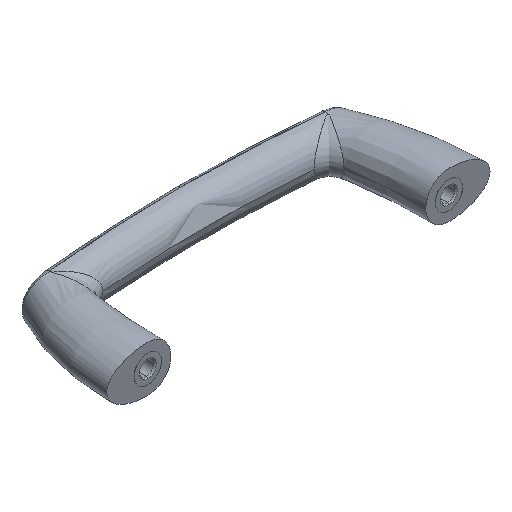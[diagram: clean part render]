
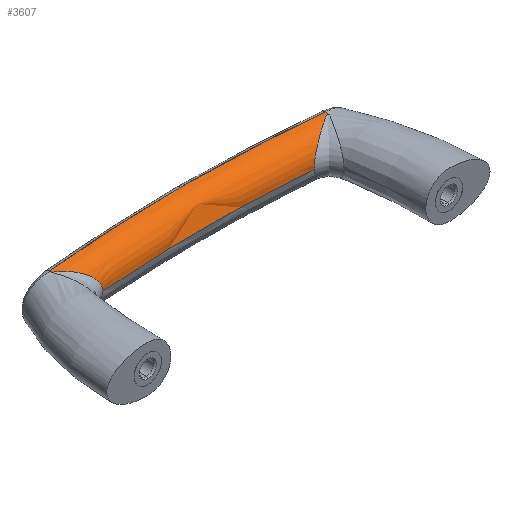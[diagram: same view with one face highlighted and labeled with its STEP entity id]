
A CAD part, isometric view. The second image highlights one B-rep face of the part: STEP entity #3607.
In plain terms, the highlighted toroidal (fillet/blend) face has major radius 397.752 mm and minor radius 6.752 mm.
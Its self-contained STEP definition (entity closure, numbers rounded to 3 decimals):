
#61 = AXIS2_PLACEMENT_3D ( 'NONE', #2431, #2990, #2130 ) ;
#70 = CARTESIAN_POINT ( 'NONE',  ( 31.441, 26.586, 2.218 ) ) ;
#83 = EDGE_CURVE ( 'NONE', #3596, #2938, #1330, .T. ) ;
#94 = VERTEX_POINT ( 'NONE', #1089 ) ;
#100 = CARTESIAN_POINT ( 'NONE',  ( 40.082, 31.614, 6.725 ) ) ;
#129 = ORIENTED_EDGE ( 'NONE', *, *, #273, .T. ) ;
#130 = AXIS2_PLACEMENT_3D ( 'NONE', #1423, #579, #2797 ) ;
#144 = CARTESIAN_POINT ( 'NONE',  ( -38.945, 31.002, 6.622 ) ) ;
#150 = ORIENTED_EDGE ( 'NONE', *, *, #2723, .T. ) ;
#182 = CARTESIAN_POINT ( 'NONE',  ( 40.217, 31.664, 6.73 ) ) ;
#209 = CARTESIAN_POINT ( 'NONE',  ( -36.286, 29.428, 5.982 ) ) ;
#256 = CARTESIAN_POINT ( 'NONE',  ( 0., 34.45, 6.749 ) ) ;
#273 = EDGE_CURVE ( 'NONE', #94, #2938, #3078, .T. ) ;
#306 = EDGE_CURVE ( 'NONE', #3158, #3596, #1149, .T. ) ;
#342 = CARTESIAN_POINT ( 'NONE',  ( 30.899, 26.277, 0. ) ) ;
#373 = DIRECTION ( 'NONE',  ( 0., 1., 0. ) ) ;
#387 = CARTESIAN_POINT ( 'NONE',  ( 32.984, 27.477, 4.077 ) ) ;
#440 = CARTESIAN_POINT ( 'NONE',  ( -39.694, 31.422, 6.7 ) ) ;
#502 = CARTESIAN_POINT ( 'NONE',  ( -30.899, 26.277, 0. ) ) ;
#531 = FACE_OUTER_BOUND ( 'NONE', #3296, .T. ) ;
#535 = ORIENTED_EDGE ( 'NONE', *, *, #1743, .T. ) ;
#555 = CARTESIAN_POINT ( 'NONE',  ( 40.272, 32.208, 0. ) ) ;
#579 = DIRECTION ( 'NONE',  ( 0., 0., -1. ) ) ;
#596 = CARTESIAN_POINT ( 'NONE',  ( 32.413, 27.146, 3.524 ) ) ;
#656 = TOROIDAL_SURFACE ( 'NONE', #130, 397.752, 6.752 ) ;
#661 = CARTESIAN_POINT ( 'NONE',  ( 0., -363.5, 6.749 ) ) ;
#689 = CARTESIAN_POINT ( 'NONE',  ( -32.984, 27.477, 4.077 ) ) ;
#692 = AXIS2_PLACEMENT_3D ( 'NONE', #2303, #1772, #896 ) ;
#713 = CARTESIAN_POINT ( 'NONE',  ( -32.413, 27.146, 3.524 ) ) ;
#734 = CARTESIAN_POINT ( 'NONE',  ( -33.588, 27.829, 4.575 ) ) ;
#757 = CARTESIAN_POINT ( 'NONE',  ( -39.951, 31.552, 6.718 ) ) ;
#873 = CARTESIAN_POINT ( 'NONE',  ( 31.125, 26.406, 1.424 ) ) ;
#896 = DIRECTION ( 'NONE',  ( 0., 1., 0. ) ) ;
#904 = CARTESIAN_POINT ( 'NONE',  ( 39.951, 31.552, 6.718 ) ) ;
#913 = DIRECTION ( 'NONE',  ( 0.995, 0.101, 0. ) ) ;
#938 = CARTESIAN_POINT ( 'NONE',  ( 34.906, 28.605, 5.382 ) ) ;
#981 = CARTESIAN_POINT ( 'NONE',  ( -39.192, 31.145, 6.653 ) ) ;
#1027 = CARTESIAN_POINT ( 'NONE',  ( -40.082, 31.614, 6.725 ) ) ;
#1048 = CARTESIAN_POINT ( 'NONE',  ( -30.899, 26.277, 0.29 ) ) ;
#1069 = CARTESIAN_POINT ( 'NONE',  ( -32.789, 27.364, 3.901 ) ) ;
#1089 = CARTESIAN_POINT ( 'NONE',  ( 30.899, 26.277, 0. ) ) ;
#1149 = CIRCLE ( 'NONE', #1920, 397.95 ) ;
#1181 = CARTESIAN_POINT ( 'NONE',  ( 39.192, 31.145, 6.653 ) ) ;
#1212 = CARTESIAN_POINT ( 'NONE',  ( 36.756, 29.71, 6.142 ) ) ;
#1221 = AXIS2_PLACEMENT_3D ( 'NONE', #3425, #913, #1476 ) ;
#1257 = CARTESIAN_POINT ( 'NONE',  ( -37.714, 30.285, 6.405 ) ) ;
#1281 = CARTESIAN_POINT ( 'NONE',  ( -30.899, 26.277, 0. ) ) ;
#1324 = CARTESIAN_POINT ( 'NONE',  ( -34.017, 28.08, 4.866 ) ) ;
#1330 = CIRCLE ( 'NONE', #2752, 6.752 ) ;
#1423 = CARTESIAN_POINT ( 'NONE',  ( 0., -363.5, 0. ) ) ;
#1476 = DIRECTION ( 'NONE',  ( 0., 0., -1. ) ) ;
#1483 = CARTESIAN_POINT ( 'NONE',  ( 33.588, 27.829, 4.575 ) ) ;
#1499 = CARTESIAN_POINT ( 'NONE',  ( 37.714, 30.285, 6.405 ) ) ;
#1556 = CARTESIAN_POINT ( 'NONE',  ( -40.217, 31.664, 6.73 ) ) ;
#1579 = CARTESIAN_POINT ( 'NONE',  ( -31.441, 26.586, 2.218 ) ) ;
#1622 = CARTESIAN_POINT ( 'NONE',  ( -31.125, 26.406, 1.424 ) ) ;
#1643 = CIRCLE ( 'NONE', #61, 391. ) ;
#1658 = DIRECTION ( 'NONE',  ( 0., 0., -1. ) ) ;
#1719 = CARTESIAN_POINT ( 'NONE',  ( 34.017, 28.08, 4.866 ) ) ;
#1743 = EDGE_CURVE ( 'NONE', #2757, #3153, #2826, .T. ) ;
#1749 = CARTESIAN_POINT ( 'NONE',  ( 40.217, 31.664, 6.73 ) ) ;
#1772 = DIRECTION ( 'NONE',  ( 0., 0., 1. ) ) ;
#1778 = ORIENTED_EDGE ( 'NONE', *, *, #83, .F. ) ;
#1811 = CARTESIAN_POINT ( 'NONE',  ( -35.36, 28.875, 5.602 ) ) ;
#1876 = CARTESIAN_POINT ( 'NONE',  ( -31.042, 26.358, 1.149 ) ) ;
#1920 = AXIS2_PLACEMENT_3D ( 'NONE', #661, #2609, #373 ) ;
#1997 = CARTESIAN_POINT ( 'NONE',  ( 32.231, 27.041, 3.321 ) ) ;
#2051 = CARTESIAN_POINT ( 'NONE',  ( 30.929, 26.294, 0.584 ) ) ;
#2066 = CARTESIAN_POINT ( 'NONE',  ( 35.36, 28.875, 5.602 ) ) ;
#2130 = DIRECTION ( 'NONE',  ( -1., 0., 0. ) ) ;
#2140 = CARTESIAN_POINT ( 'NONE',  ( -34.906, 28.605, 5.382 ) ) ;
#2303 = CARTESIAN_POINT ( 'NONE',  ( 0., -363.5, 6.749 ) ) ;
#2313 = CARTESIAN_POINT ( 'NONE',  ( 39.568, 31.353, 6.69 ) ) ;
#2331 = CARTESIAN_POINT ( 'NONE',  ( 31.042, 26.358, 1.149 ) ) ;
#2360 = EDGE_CURVE ( 'NONE', #2372, #3153, #3069, .T. ) ;
#2372 = VERTEX_POINT ( 'NONE', #1281 ) ;
#2393 = CARTESIAN_POINT ( 'NONE',  ( -39.568, 31.353, 6.69 ) ) ;
#2431 = CARTESIAN_POINT ( 'NONE',  ( 0., -363.5, 0. ) ) ;
#2466 = ORIENTED_EDGE ( 'NONE', *, *, #306, .F. ) ;
#2576 = CARTESIAN_POINT ( 'NONE',  ( 38.945, 31.002, 6.622 ) ) ;
#2593 = CARTESIAN_POINT ( 'NONE',  ( 30.899, 26.277, 0.29 ) ) ;
#2609 = DIRECTION ( 'NONE',  ( 0., 0., -1. ) ) ;
#2634 = ORIENTED_EDGE ( 'NONE', *, *, #2360, .F. ) ;
#2668 = CARTESIAN_POINT ( 'NONE',  ( -32.231, 27.041, 3.321 ) ) ;
#2723 = EDGE_CURVE ( 'NONE', #3158, #2757, #2919, .T. ) ;
#2750 = CARTESIAN_POINT ( 'NONE',  ( -31.727, 26.75, 2.684 ) ) ;
#2752 = AXIS2_PLACEMENT_3D ( 'NONE', #555, #2806, #1658 ) ;
#2757 = VERTEX_POINT ( 'NONE', #3130 ) ;
#2797 = DIRECTION ( 'NONE',  ( -1., 0., 0. ) ) ;
#2806 = DIRECTION ( 'NONE',  ( 0.995, -0.101, 0. ) ) ;
#2826 = CIRCLE ( 'NONE', #1221, 6.752 ) ;
#2844 = CARTESIAN_POINT ( 'NONE',  ( 38.203, 30.576, 6.509 ) ) ;
#2852 = EDGE_CURVE ( 'NONE', #2372, #94, #1643, .T. ) ;
#2876 = CARTESIAN_POINT ( 'NONE',  ( 36.286, 29.428, 5.982 ) ) ;
#2891 = CARTESIAN_POINT ( 'NONE',  ( 32.789, 27.364, 3.901 ) ) ;
#2919 = CIRCLE ( 'NONE', #692, 397.95 ) ;
#2933 = CARTESIAN_POINT ( 'NONE',  ( -38.203, 30.576, 6.509 ) ) ;
#2938 = VERTEX_POINT ( 'NONE', #182 ) ;
#2960 = ORIENTED_EDGE ( 'NONE', *, *, #2852, .T. ) ;
#2990 = DIRECTION ( 'NONE',  ( 0., 0., -1. ) ) ;
#3035 = CARTESIAN_POINT ( 'NONE',  ( -40.217, 31.664, 6.73 ) ) ;
#3069 = B_SPLINE_CURVE_WITH_KNOTS ( 'NONE', 3,
 ( #502, #1048, #3581, #1876, #1622, #1579, #2750, #2668, #713, #1069, #689, #734, #1324, #2140, #1811, #209, #3540, #1257, #2933, #144, #981, #2393, #440, #757, #1027, #1556 ),
 .UNSPECIFIED., .F., .F.,
 ( 4, 2, 2, 2, 2, 2, 2, 2, 2, 2, 2, 2, 4 ),
 ( 0.014, 0.015, 0.016, 0.017, 0.018, 0.019, 0.021, 0.022, 0.024, 0.026, 0.027, 0.027, 0.028 ),
 .UNSPECIFIED. ) ;
#3078 = B_SPLINE_CURVE_WITH_KNOTS ( 'NONE', 3,
 ( #342, #2593, #2051, #2331, #873, #70, #3161, #1997, #596, #2891, #387, #1483, #1719, #938, #2066, #2876, #1212, #1499, #2844, #2576, #1181, #2313, #3417, #904, #100, #1749 ),
 .UNSPECIFIED., .F., .F.,
 ( 4, 2, 2, 2, 2, 2, 2, 2, 2, 2, 2, 2, 4 ),
 ( 0.014, 0.015, 0.016, 0.017, 0.018, 0.019, 0.021, 0.022, 0.024, 0.026, 0.027, 0.027, 0.028 ),
 .UNSPECIFIED. ) ;
#3130 = CARTESIAN_POINT ( 'NONE',  ( -40.292, 32.405, 6.749 ) ) ;
#3153 = VERTEX_POINT ( 'NONE', #3035 ) ;
#3158 = VERTEX_POINT ( 'NONE', #256 ) ;
#3161 = CARTESIAN_POINT ( 'NONE',  ( 31.727, 26.75, 2.684 ) ) ;
#3296 = EDGE_LOOP ( 'NONE', ( #2634, #2960, #129, #1778, #2466, #150, #535 ) ) ;
#3369 = CARTESIAN_POINT ( 'NONE',  ( 40.292, 32.405, 6.749 ) ) ;
#3417 = CARTESIAN_POINT ( 'NONE',  ( 39.694, 31.422, 6.7 ) ) ;
#3425 = CARTESIAN_POINT ( 'NONE',  ( -40.272, 32.208, 0. ) ) ;
#3540 = CARTESIAN_POINT ( 'NONE',  ( -36.756, 29.71, 6.142 ) ) ;
#3581 = CARTESIAN_POINT ( 'NONE',  ( -30.929, 26.294, 0.584 ) ) ;
#3596 = VERTEX_POINT ( 'NONE', #3369 ) ;
#3607 = ADVANCED_FACE ( 'NONE', ( #531 ), #656, .T. ) ;
